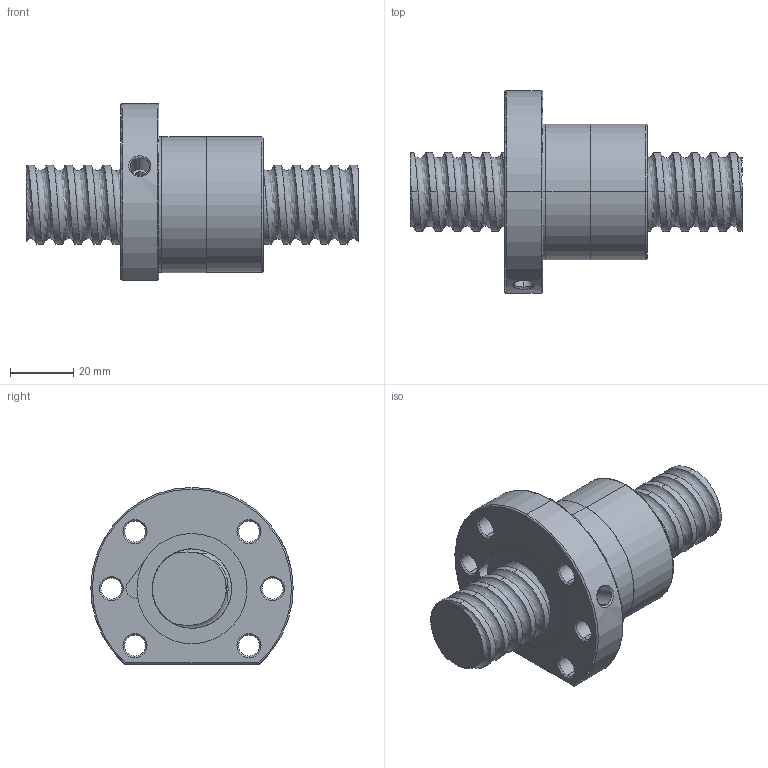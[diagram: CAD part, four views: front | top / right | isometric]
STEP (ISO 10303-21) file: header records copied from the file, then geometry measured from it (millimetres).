
FILE_DESCRIPTION (( 'STEP AP214' ), '1' );
FILE_NAME ('FSDC02506T4-C-B.STEP', '2010-06-25T11:31:33', ( 'XPAUTO' ), ( 'XPAUTO' ), 'SwSTEP 2.0', 'SolidWorks 2007', '' );
FILE_SCHEMA (( 'AUTOMOTIVE_DESIGN' ));
Length unit declared in the file: millimetre
Products named in the file (3): FSDC02506T4-C-B; FSDC02506T4-C-B.sldasm-Part-2_預設; FSDC02506T4-C-B.sldasm-Part-1_預設
Assembly tree (2 placements, depth 2):
  FSDC02506T4-C-B
    FSDC02506T4-C-B.sldasm-Part-2_預設
    FSDC02506T4-C-B.sldasm-Part-1_預設
Bounding box: 105 x 63.99 x 56 mm (x, y, z)
Volume: 103344.1 mm3; surface area: 27935.3 mm2
Topology: 2 solids, 2 shells, 127 faces, 318 edges, 200 vertices
Faces by surface type: cylinder 74, cone 24, plane 19, bspline 5, torus 5
Entity records: 25907 total; most frequent: CARTESIAN_POINT 22883, ORIENTED_EDGE 636, DIRECTION 580, EDGE_CURVE 318, AXIS2_PLACEMENT_3D 235, VERTEX_POINT 200, EDGE_LOOP 148, ADVANCED_FACE 127
